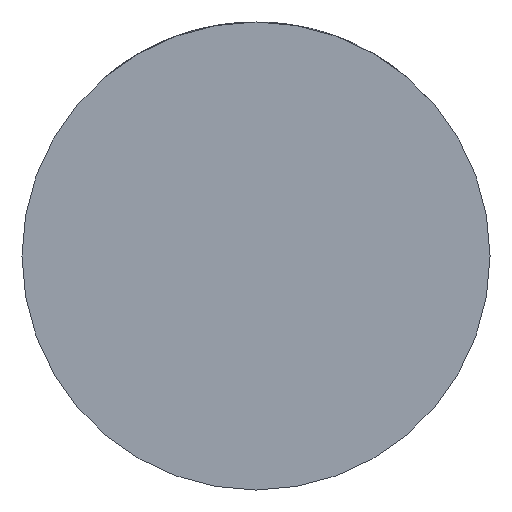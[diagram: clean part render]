
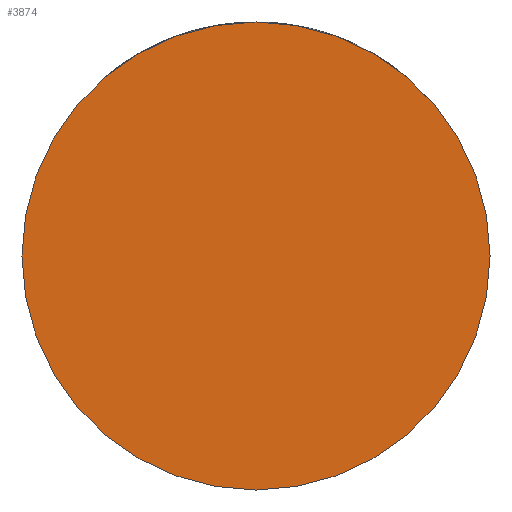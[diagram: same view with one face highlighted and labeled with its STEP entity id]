
A CAD part, front view. The second image highlights one B-rep face of the part: STEP entity #3874.
In plain terms, the highlighted planar face has unit normal (0, -1, 0).
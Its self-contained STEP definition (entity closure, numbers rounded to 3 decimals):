
#212 = ORIENTED_EDGE ( 'NONE', *, *, #2488, .T. ) ;
#315 = AXIS2_PLACEMENT_3D ( 'NONE', #2955, #2607, #3554 ) ;
#1014 = DIRECTION ( 'NONE',  ( 0., -1., 0. ) ) ;
#1054 = VERTEX_POINT ( 'NONE', #3620 ) ;
#1224 = ORIENTED_EDGE ( 'NONE', *, *, #2517, .T. ) ;
#1755 = AXIS2_PLACEMENT_3D ( 'NONE', #4207, #1014, #3444 ) ;
#1773 = CARTESIAN_POINT ( 'NONE',  ( -29.5, -33., 0. ) ) ;
#2242 = DIRECTION ( 'NONE',  ( 0., -1., 0. ) ) ;
#2420 = CIRCLE ( 'NONE', #3693, 29.5 ) ;
#2488 = EDGE_CURVE ( 'NONE', #2984, #1054, #2420, .T. ) ;
#2517 = EDGE_CURVE ( 'NONE', #1054, #2984, #3756, .T. ) ;
#2607 = DIRECTION ( 'NONE',  ( 0., -1., 0. ) ) ;
#2701 = FACE_OUTER_BOUND ( 'NONE', #3244, .T. ) ;
#2907 = DIRECTION ( 'NONE',  ( 1., 0., 0. ) ) ;
#2955 = CARTESIAN_POINT ( 'NONE',  ( 0., -33., 0. ) ) ;
#2984 = VERTEX_POINT ( 'NONE', #1773 ) ;
#3244 = EDGE_LOOP ( 'NONE', ( #212, #1224 ) ) ;
#3444 = DIRECTION ( 'NONE',  ( 1., 0., 0. ) ) ;
#3554 = DIRECTION ( 'NONE',  ( 1., 0., 0. ) ) ;
#3620 = CARTESIAN_POINT ( 'NONE',  ( 29.5, -33., 0. ) ) ;
#3693 = AXIS2_PLACEMENT_3D ( 'NONE', #3999, #2242, #2907 ) ;
#3756 = CIRCLE ( 'NONE', #315, 29.5 ) ;
#3874 = ADVANCED_FACE ( 'NONE', ( #2701 ), #4186, .T. ) ;
#3999 = CARTESIAN_POINT ( 'NONE',  ( 0., -33., 0. ) ) ;
#4186 = PLANE ( 'NONE',  #1755 ) ;
#4207 = CARTESIAN_POINT ( 'NONE',  ( 0., -33., 0. ) ) ;
